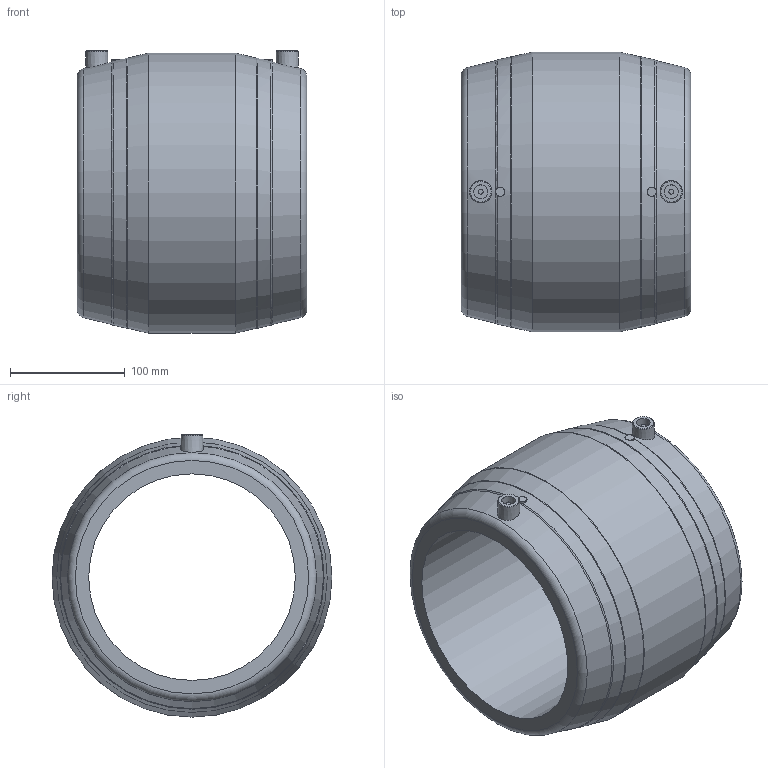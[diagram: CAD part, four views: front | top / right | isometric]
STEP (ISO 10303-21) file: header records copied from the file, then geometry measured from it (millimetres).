
FILE_DESCRIPTION(/* description */ ('Unknown'),/* implementation_level */ '2;1');
FILE_NAME(/* name */ 'MP180H',/* time_stamp */ '2021-05-27T09:34:17+02:00',/* author */ ('Unknown'),/* organization */ ('Unknown'),/* preprocessor_version */ 'ST-DEVELOPER v16.7',/* originating_system */ 'Solid Edge',/* authorisation */ 'Unknown');
FILE_SCHEMA (('AUTOMOTIVE_DESIGN {1 0 10303 214 3 1 1}'));
Length unit declared in the file: millimetre
Products named in the file (1): MP180H
Bounding box: 200 x 244 x 246 mm (x, y, z)
Volume: 3591666.7 mm3; surface area: 285401.6 mm2
Topology: 1 solids, 1 shells, 36 faces, 80 edges, 50 vertices
Faces by surface type: plane 10, torus 10, cone 8, cylinder 8
Full cylindrical faces by diameter (mm): 4 x2, 12 x2, 180 x1, 244 x1
Entity records: 859 total; most frequent: CARTESIAN_POINT 200, DIRECTION 138, ORIENTED_EDGE 88, AXIS2_PLACEMENT_3D 69, EDGE_LOOP 66, FACE_BOUND 66, EDGE_CURVE 44, VERTEX_POINT 38
